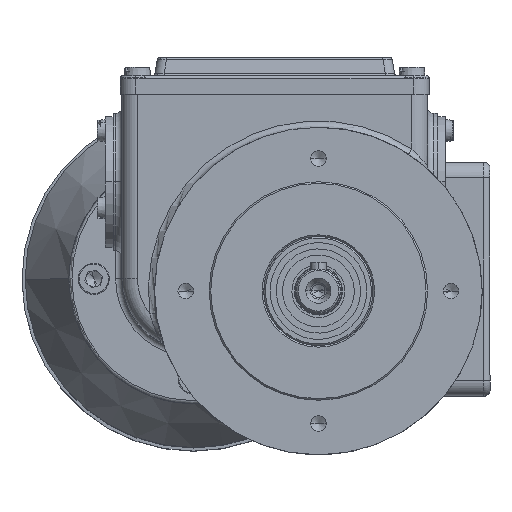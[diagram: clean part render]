
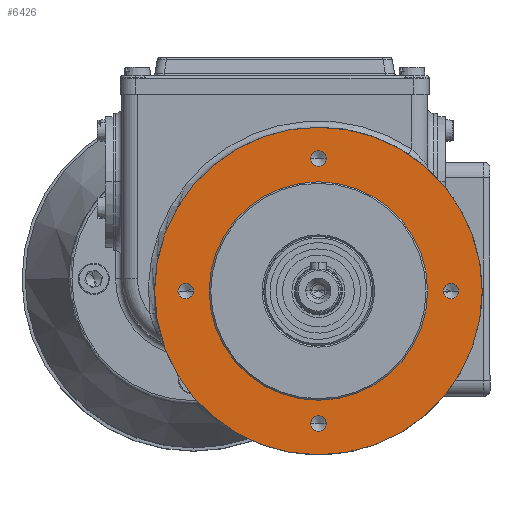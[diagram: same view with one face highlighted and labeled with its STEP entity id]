
A CAD part, top view. The second image highlights one B-rep face of the part: STEP entity #6426.
In plain terms, the highlighted planar face has unit normal (0, 0, 1).
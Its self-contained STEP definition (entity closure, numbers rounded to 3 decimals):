
#4 = CARTESIAN_POINT ( 'NONE',  ( 40., 38.5, 75.5 ) ) ;
#44 = EDGE_CURVE ( 'NONE', #2097, #15945, #7697, .T. ) ;
#741 = CIRCLE ( 'NONE', #12157, 2.5 ) ;
#928 = DIRECTION ( 'NONE',  ( 1., 0., 0. ) ) ;
#1169 = AXIS2_PLACEMENT_3D ( 'NONE', #6179, #13252, #11618 ) ;
#1228 = DIRECTION ( 'NONE',  ( 0., -1., 0. ) ) ;
#1266 = AXIS2_PLACEMENT_3D ( 'NONE', #11771, #5269, #1228 ) ;
#1311 = VERTEX_POINT ( 'NONE', #13852 ) ;
#1369 = EDGE_LOOP ( 'NONE', ( #16868, #4028 ) ) ;
#1564 = CARTESIAN_POINT ( 'NONE',  ( 40., -4., 75.5 ) ) ;
#1947 = DIRECTION ( 'NONE',  ( 1., 0., 0. ) ) ;
#2073 = CARTESIAN_POINT ( 'NONE',  ( 40., -46.5, 75.5 ) ) ;
#2097 = VERTEX_POINT ( 'NONE', #15612 ) ;
#2446 = ORIENTED_EDGE ( 'NONE', *, *, #14806, .F. ) ;
#2508 = VERTEX_POINT ( 'NONE', #12483 ) ;
#2728 = CARTESIAN_POINT ( 'NONE',  ( 37.5, 38.5, 75.5 ) ) ;
#2762 = DIRECTION ( 'NONE',  ( 0., 0., -1. ) ) ;
#2832 = EDGE_LOOP ( 'NONE', ( #17316, #2446 ) ) ;
#2906 = CIRCLE ( 'NONE', #1169, 52.5 ) ;
#3143 = EDGE_CURVE ( 'NONE', #15107, #9988, #8093, .T. ) ;
#3426 = DIRECTION ( 'NONE',  ( 0., 0., 1. ) ) ;
#3480 = CARTESIAN_POINT ( 'NONE',  ( -2.5, -4., 75.5 ) ) ;
#3512 = DIRECTION ( 'NONE',  ( 1., 0., 0. ) ) ;
#3545 = DIRECTION ( 'NONE',  ( 1., 0., 0. ) ) ;
#3762 = FACE_BOUND ( 'NONE', #15496, .T. ) ;
#3861 = VERTEX_POINT ( 'NONE', #11728 ) ;
#3930 = AXIS2_PLACEMENT_3D ( 'NONE', #8958, #16990, #13057 ) ;
#4028 = ORIENTED_EDGE ( 'NONE', *, *, #4943, .F. ) ;
#4125 = CARTESIAN_POINT ( 'NONE',  ( 40., 31., 75.5 ) ) ;
#4250 = DIRECTION ( 'NONE',  ( 0., 1., 0. ) ) ;
#4542 = ORIENTED_EDGE ( 'NONE', *, *, #12120, .T. ) ;
#4544 = ORIENTED_EDGE ( 'NONE', *, *, #11209, .F. ) ;
#4943 = EDGE_CURVE ( 'NONE', #15945, #2097, #6915, .T. ) ;
#5041 = DIRECTION ( 'NONE',  ( 0., 0., 1. ) ) ;
#5090 = FACE_BOUND ( 'NONE', #1369, .T. ) ;
#5269 = DIRECTION ( 'NONE',  ( 0., 0., 1. ) ) ;
#5359 = FACE_BOUND ( 'NONE', #16551, .T. ) ;
#5450 = EDGE_CURVE ( 'NONE', #17466, #1311, #2906, .T. ) ;
#5472 = DIRECTION ( 'NONE',  ( 0., 0., 1. ) ) ;
#5646 = CIRCLE ( 'NONE', #13360, 52.5 ) ;
#5650 = CARTESIAN_POINT ( 'NONE',  ( 40., -56.5, 75.5 ) ) ;
#5929 = CARTESIAN_POINT ( 'NONE',  ( 80., -4., 75.5 ) ) ;
#5962 = DIRECTION ( 'NONE',  ( 0., 0., 1. ) ) ;
#6087 = CIRCLE ( 'NONE', #12375, 2.5 ) ;
#6117 = DIRECTION ( 'NONE',  ( 0., 0., 1. ) ) ;
#6179 = CARTESIAN_POINT ( 'NONE',  ( 40., -4., 75.5 ) ) ;
#6199 = CARTESIAN_POINT ( 'NONE',  ( 40., -46.5, 75.5 ) ) ;
#6318 = CARTESIAN_POINT ( 'NONE',  ( 40., -4., 75.5 ) ) ;
#6409 = EDGE_LOOP ( 'NONE', ( #15309, #4544 ) ) ;
#6426 = ADVANCED_FACE ( 'NONE', ( #17258, #5090, #5359, #13319, #3762, #9215 ), #9480, .T. ) ;
#6432 = AXIS2_PLACEMENT_3D ( 'NONE', #6199, #11639, #928 ) ;
#6662 = AXIS2_PLACEMENT_3D ( 'NONE', #4, #5472, #16042 ) ;
#6915 = CIRCLE ( 'NONE', #14327, 2.5 ) ;
#7045 = EDGE_CURVE ( 'NONE', #1311, #17466, #5646, .T. ) ;
#7530 = EDGE_CURVE ( 'NONE', #3861, #12708, #10746, .T. ) ;
#7535 = EDGE_CURVE ( 'NONE', #8530, #9928, #14763, .T. ) ;
#7606 = CIRCLE ( 'NONE', #12695, 2.5 ) ;
#7697 = CIRCLE ( 'NONE', #17423, 2.5 ) ;
#8093 = CIRCLE ( 'NONE', #6662, 2.5 ) ;
#8530 = VERTEX_POINT ( 'NONE', #4125 ) ;
#8689 = CARTESIAN_POINT ( 'NONE',  ( 82.5, -4., 75.5 ) ) ;
#8718 = CIRCLE ( 'NONE', #6432, 2.5 ) ;
#8847 = ORIENTED_EDGE ( 'NONE', *, *, #7535, .T. ) ;
#8958 = CARTESIAN_POINT ( 'NONE',  ( 40., -4., 75.5 ) ) ;
#9215 = FACE_OUTER_BOUND ( 'NONE', #14129, .T. ) ;
#9421 = ORIENTED_EDGE ( 'NONE', *, *, #17366, .F. ) ;
#9480 = PLANE ( 'NONE',  #1266 ) ;
#9522 = DIRECTION ( 'NONE',  ( 0., 0., 1. ) ) ;
#9827 = EDGE_CURVE ( 'NONE', #2508, #10821, #741, .T. ) ;
#9928 = VERTEX_POINT ( 'NONE', #11811 ) ;
#9955 = ORIENTED_EDGE ( 'NONE', *, *, #7045, .F. ) ;
#9988 = VERTEX_POINT ( 'NONE', #2728 ) ;
#10118 = DIRECTION ( 'NONE',  ( 0., 0., 1. ) ) ;
#10262 = CARTESIAN_POINT ( 'NONE',  ( -2.5, -4., 75.5 ) ) ;
#10659 = DIRECTION ( 'NONE',  ( 0., 1., 0. ) ) ;
#10746 = CIRCLE ( 'NONE', #14483, 2.5 ) ;
#10821 = VERTEX_POINT ( 'NONE', #5929 ) ;
#11209 = EDGE_CURVE ( 'NONE', #10821, #2508, #7606, .T. ) ;
#11424 = AXIS2_PLACEMENT_3D ( 'NONE', #6318, #11757, #10659 ) ;
#11618 = DIRECTION ( 'NONE',  ( 0., 1., 0. ) ) ;
#11639 = DIRECTION ( 'NONE',  ( 0., 0., 1. ) ) ;
#11728 = CARTESIAN_POINT ( 'NONE',  ( 37.5, -46.5, 75.5 ) ) ;
#11757 = DIRECTION ( 'NONE',  ( 0., 0., -1. ) ) ;
#11771 = CARTESIAN_POINT ( 'NONE',  ( 40., 31., 75.5 ) ) ;
#11811 = CARTESIAN_POINT ( 'NONE',  ( 40., -39., 75.5 ) ) ;
#12120 = EDGE_CURVE ( 'NONE', #9928, #8530, #12876, .T. ) ;
#12157 = AXIS2_PLACEMENT_3D ( 'NONE', #12995, #5041, #3545 ) ;
#12375 = AXIS2_PLACEMENT_3D ( 'NONE', #13365, #9522, #14616 ) ;
#12460 = CARTESIAN_POINT ( 'NONE',  ( 42.5, -46.5, 75.5 ) ) ;
#12483 = CARTESIAN_POINT ( 'NONE',  ( 85., -4., 75.5 ) ) ;
#12695 = AXIS2_PLACEMENT_3D ( 'NONE', #8689, #10118, #15933 ) ;
#12708 = VERTEX_POINT ( 'NONE', #12460 ) ;
#12876 = CIRCLE ( 'NONE', #11424, 35. ) ;
#12942 = DIRECTION ( 'NONE',  ( 1., 0., 0. ) ) ;
#12995 = CARTESIAN_POINT ( 'NONE',  ( 82.5, -4., 75.5 ) ) ;
#13031 = CARTESIAN_POINT ( 'NONE',  ( -5., -4., 75.5 ) ) ;
#13057 = DIRECTION ( 'NONE',  ( 0., 1., 0. ) ) ;
#13252 = DIRECTION ( 'NONE',  ( 0., 0., -1. ) ) ;
#13319 = FACE_BOUND ( 'NONE', #6409, .T. ) ;
#13360 = AXIS2_PLACEMENT_3D ( 'NONE', #1564, #2762, #4250 ) ;
#13365 = CARTESIAN_POINT ( 'NONE',  ( 40., 38.5, 75.5 ) ) ;
#13852 = CARTESIAN_POINT ( 'NONE',  ( 40., 48.5, 75.5 ) ) ;
#14129 = EDGE_LOOP ( 'NONE', ( #9955, #17217 ) ) ;
#14327 = AXIS2_PLACEMENT_3D ( 'NONE', #10262, #5962, #12942 ) ;
#14330 = CARTESIAN_POINT ( 'NONE',  ( 42.5, 38.5, 75.5 ) ) ;
#14483 = AXIS2_PLACEMENT_3D ( 'NONE', #2073, #3426, #3512 ) ;
#14616 = DIRECTION ( 'NONE',  ( 1., 0., 0. ) ) ;
#14763 = CIRCLE ( 'NONE', #3930, 35. ) ;
#14806 = EDGE_CURVE ( 'NONE', #9988, #15107, #6087, .T. ) ;
#15107 = VERTEX_POINT ( 'NONE', #14330 ) ;
#15309 = ORIENTED_EDGE ( 'NONE', *, *, #9827, .F. ) ;
#15496 = EDGE_LOOP ( 'NONE', ( #8847, #4542 ) ) ;
#15612 = CARTESIAN_POINT ( 'NONE',  ( 0., -4., 75.5 ) ) ;
#15933 = DIRECTION ( 'NONE',  ( 1., 0., 0. ) ) ;
#15945 = VERTEX_POINT ( 'NONE', #13031 ) ;
#16042 = DIRECTION ( 'NONE',  ( 1., 0., 0. ) ) ;
#16551 = EDGE_LOOP ( 'NONE', ( #9421, #16702 ) ) ;
#16702 = ORIENTED_EDGE ( 'NONE', *, *, #7530, .F. ) ;
#16868 = ORIENTED_EDGE ( 'NONE', *, *, #44, .F. ) ;
#16990 = DIRECTION ( 'NONE',  ( 0., 0., -1. ) ) ;
#17217 = ORIENTED_EDGE ( 'NONE', *, *, #5450, .F. ) ;
#17258 = FACE_BOUND ( 'NONE', #2832, .T. ) ;
#17316 = ORIENTED_EDGE ( 'NONE', *, *, #3143, .F. ) ;
#17366 = EDGE_CURVE ( 'NONE', #12708, #3861, #8718, .T. ) ;
#17423 = AXIS2_PLACEMENT_3D ( 'NONE', #3480, #6117, #1947 ) ;
#17466 = VERTEX_POINT ( 'NONE', #5650 ) ;
